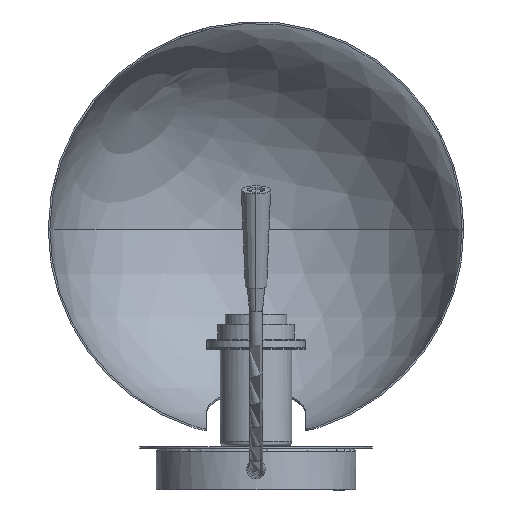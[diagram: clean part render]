
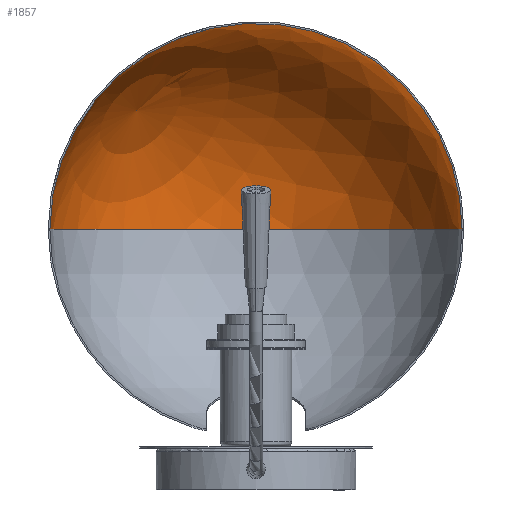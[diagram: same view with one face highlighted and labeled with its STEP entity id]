
A CAD part, front view. The second image highlights one B-rep face of the part: STEP entity #1857.
In plain terms, the highlighted spherical face has radius 123.9 mm.
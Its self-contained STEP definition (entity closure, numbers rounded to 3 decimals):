
#33=SPHERICAL_SURFACE('',#2047,123.9);
#198=CIRCLE('',#2042,123.9);
#199=CIRCLE('',#2043,123.9);
#201=CIRCLE('',#2046,123.9);
#202=CIRCLE('',#2048,123.9);
#348=FACE_OUTER_BOUND('',#469,.T.);
#469=EDGE_LOOP('',(#1617,#1618,#1619,#1620,#1621));
#882=VERTEX_POINT('',#3913);
#885=VERTEX_POINT('',#3920);
#887=VERTEX_POINT('',#3927);
#888=VERTEX_POINT('',#3934);
#1132=EDGE_CURVE('',#887,#885,#198,.T.);
#1133=EDGE_CURVE('',#882,#887,#199,.T.);
#1135=EDGE_CURVE('',#885,#882,#201,.T.);
#1136=EDGE_CURVE('',#887,#888,#202,.T.);
#1617=ORIENTED_EDGE('',*,*,#1133,.T.);
#1618=ORIENTED_EDGE('',*,*,#1136,.T.);
#1619=ORIENTED_EDGE('',*,*,#1136,.F.);
#1620=ORIENTED_EDGE('',*,*,#1132,.T.);
#1621=ORIENTED_EDGE('',*,*,#1135,.T.);
#1857=ADVANCED_FACE('',(#348),#33,.F.);
#2042=AXIS2_PLACEMENT_3D('',#3928,#2505,#2506);
#2043=AXIS2_PLACEMENT_3D('',#3929,#2507,#2508);
#2046=AXIS2_PLACEMENT_3D('',#3932,#2513,#2514);
#2047=AXIS2_PLACEMENT_3D('',#3933,#2515,#2516);
#2048=AXIS2_PLACEMENT_3D('',#3935,#2517,#2518);
#2505=DIRECTION('center_axis',(0.,1.,0.));
#2506=DIRECTION('ref_axis',(0.,0.,-1.));
#2507=DIRECTION('center_axis',(0.,1.,0.));
#2508=DIRECTION('ref_axis',(0.,0.,-1.));
#2513=DIRECTION('center_axis',(0.,0.,
1.));
#2514=DIRECTION('ref_axis',(1.,0.,0.));
#2515=DIRECTION('center_axis',(0.577,0.577,0.577));
#2516=DIRECTION('ref_axis',(-0.707,0.,0.707));
#2517=DIRECTION('center_axis',(-0.408,0.816,-0.408));
#2518=DIRECTION('ref_axis',(0.707,0.,-0.707));
#3913=CARTESIAN_POINT('',(123.9,48.135,-130.592));
#3920=CARTESIAN_POINT('',(-123.9,48.135,-130.592));
#3927=CARTESIAN_POINT('',(87.611,48.135,-218.202));
#3928=CARTESIAN_POINT('Origin',(0.,48.135,-130.592));
#3929=CARTESIAN_POINT('Origin',(0.,48.135,-130.592));
#3932=CARTESIAN_POINT('Origin',(0.,48.135,-130.592));
#3933=CARTESIAN_POINT('Origin',(0.,48.135,-130.592));
#3934=CARTESIAN_POINT('',(-71.534,-23.398,-202.125));
#3935=CARTESIAN_POINT('Origin',(0.,48.135,-130.592));
